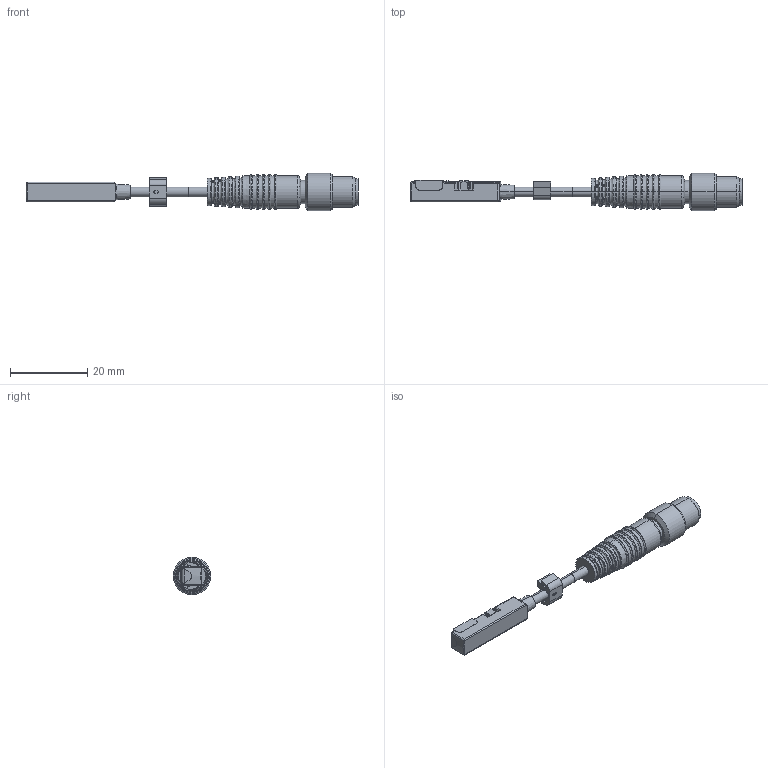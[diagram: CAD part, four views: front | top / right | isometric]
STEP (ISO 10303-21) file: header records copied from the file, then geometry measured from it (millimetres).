
FILE_DESCRIPTION (( 'STEP AP214' ), '1' );
FILE_NAME ('D P M.STEP', '2016-11-20T10:32:33', ( 'Hubert' ), ( '' ), 'SwSTEP 2.0', 'SolidWorks 2014', '' );
FILE_SCHEMA (( 'AUTOMOTIVE_DESIGN' ));
Length unit declared in the file: millimetre
Products named in the file (4): 3_4; 2_1_3; 1_1_3; D P M
Assembly tree (3 placements, depth 2):
  D P M
    1_1_3
    2_1_3
    3_4
Bounding box: 86 x 9.7 x 9.7 mm (x, y, z)
Volume: 2781.6 mm3; surface area: 2452.9 mm2
Topology: 3 solids, 3 shells, 451 faces, 1189 edges, 763 vertices
Faces by surface type: plane 223, cylinder 123, bspline 73, cone 32
Entity records: 15815 total; most frequent: CARTESIAN_POINT 4986, ORIENTED_EDGE 2366, DIRECTION 2028, EDGE_CURVE 1183, VERTEX_POINT 763, AXIS2_PLACEMENT_3D 732, VECTOR 564, LINE 564
